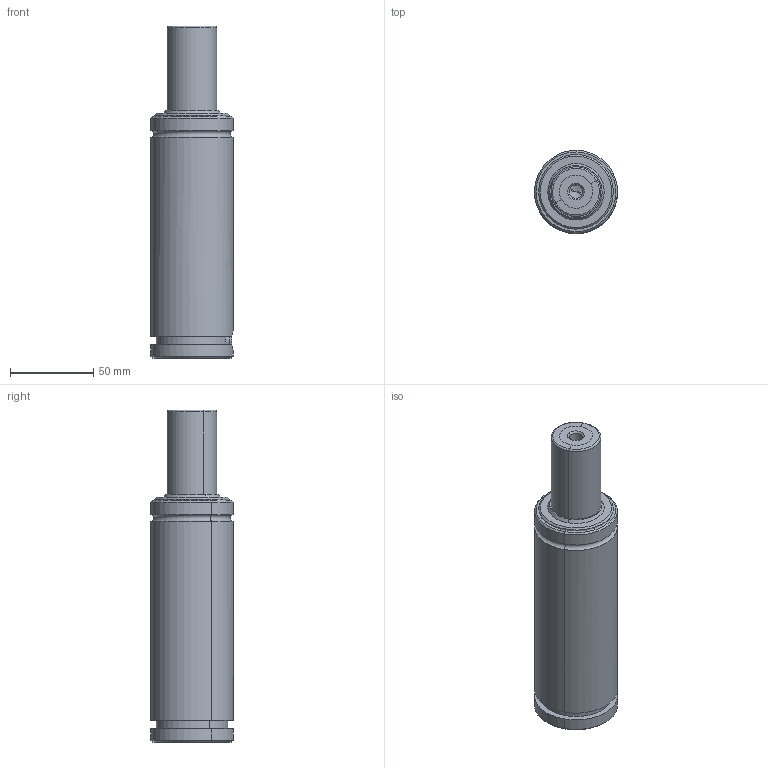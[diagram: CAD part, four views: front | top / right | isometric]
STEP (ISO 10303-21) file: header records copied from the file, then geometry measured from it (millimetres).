
FILE_DESCRIPTION(('CATIA V5 STEP Exchange'),'2;1');
FILE_NAME('W:\CATALOGO GENERAL 2018\FICHEROS CAD\006-TPF\TPFS 2000\TPFS 2000x50.stp','2017-11-21T14:50:53+00:00',('none'),('none'),'CATIA Version 5 Release 17 (IN-10)','CATIA V5 STEP AP203','none');
FILE_SCHEMA(('CONFIG_CONTROL_DESIGN'));
Length unit declared in the file: millimetre
Products named in the file (1): TPFS 2000x50
Assembly tree (3 placements, depth 2):
  TPFS 2000x50
    #56
    #1339
    #1920
Bounding box: 49.99 x 49.99 x 200 mm (x, y, z)
Volume: 341634.2 mm3; surface area: 42048.4 mm2
Topology: 4 solids, 4 shells, 150 faces, 318 edges, 180 vertices
Faces by surface type: cone 58, cylinder 37, torus 30, plane 25
Entity records: 3661 total; most frequent: CARTESIAN_POINT 665, ORIENTED_EDGE 620, DIRECTION 502, EDGE_CURVE 310, AXIS2_PLACEMENT_3D 289, CIRCLE 186, VERTEX_POINT 180, EDGE_LOOP 164
